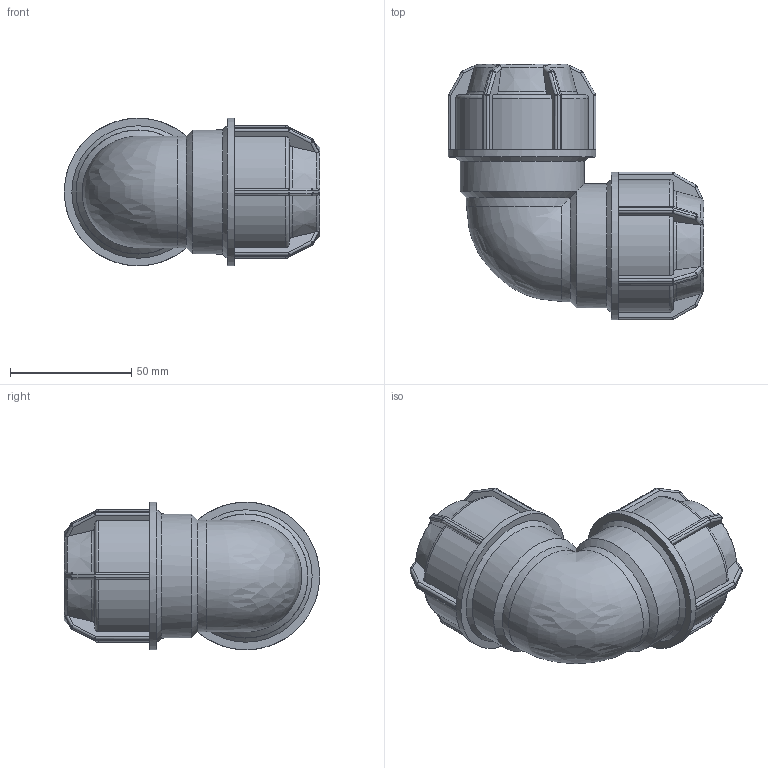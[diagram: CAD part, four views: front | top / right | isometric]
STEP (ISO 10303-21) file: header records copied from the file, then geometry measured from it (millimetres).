
FILE_DESCRIPTION(/* description */ ('PLASSON L.14 90° ELBOW (SILVER) 32-32'),/* implementation_level */ '2;1');
FILE_NAME(/* name */ 'C:\Dropbox\KIMPROJECTS-Inventor\99-16-3568-Processing\Silver+MF ISRAEL\140500\140500032.ipt.stp',/* time_stamp */ '2018-04-09T13:03:47+03:00',/* author */ ('KIM'),/* organization */ (''),/* preprocessor_version */ 'ST-DEVELOPER v15.6',/* originating_system */ 'Autodesk Inventor 2015',/* authorisation */ '');
FILE_SCHEMA (('AUTOMOTIVE_DESIGN { 1 0 10303 214 3 1 1 }'));
Length unit declared in the file: millimetre
Products named in the file (1): 140500032
Bounding box: 105.5 x 105.5 x 61 mm (x, y, z)
Volume: 177073.8 mm3; surface area: 44507 mm2
Topology: 1 solids, 1 shells, 408 faces, 986 edges, 563 vertices
Faces by surface type: plane 192, cylinder 120, sphere 48, torus 29, cone 18, bspline 1
Full cylindrical faces by diameter (mm): 28.8 x2, 32 x4, 51.2 x2, 61 x2
Entity records: 11854 total; most frequent: CARTESIAN_POINT 3054, DIRECTION 1854, ORIENTED_EDGE 1818, EDGE_CURVE 909, AXIS2_PLACEMENT_3D 747, VERTEX_POINT 532, EDGE_LOOP 431, FACE_OUTER_BOUND 404
